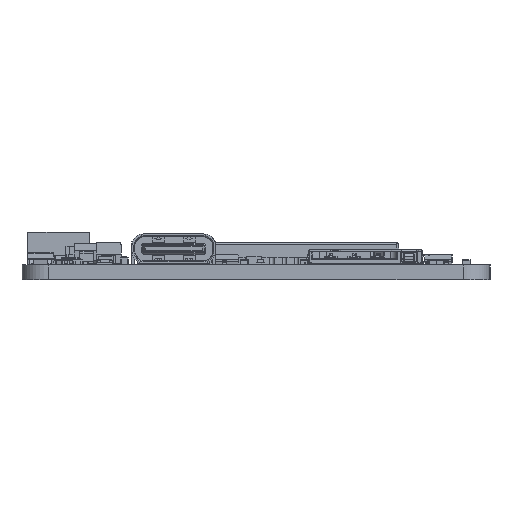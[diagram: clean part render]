
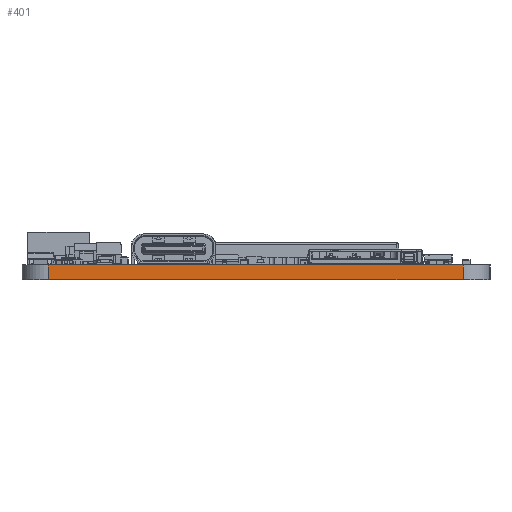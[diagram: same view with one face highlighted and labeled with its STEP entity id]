
A CAD part, left-side view. The second image highlights one B-rep face of the part: STEP entity #401.
In plain terms, the highlighted planar face has unit normal (-1, 0, 0).
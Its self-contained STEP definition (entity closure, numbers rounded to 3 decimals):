
#401 = ADVANCED_FACE('',(#402),#436,.T.);
#402 = FACE_BOUND('',#403,.T.);
#403 = EDGE_LOOP('',(#404,#414,#422,#430));
#404 = ORIENTED_EDGE('',*,*,#405,.T.);
#405 = EDGE_CURVE('',#406,#408,#410,.T.);
#406 = VERTEX_POINT('',#407);
#407 = CARTESIAN_POINT('',(38.104,71.886,0.));
#408 = VERTEX_POINT('',#409);
#409 = CARTESIAN_POINT('',(38.104,71.886,1.601));
#410 = LINE('',#411,#412);
#411 = CARTESIAN_POINT('',(38.104,71.886,0.));
#412 = VECTOR('',#413,1.);
#413 = DIRECTION('',(0.,0.,1.));
#414 = ORIENTED_EDGE('',*,*,#415,.T.);
#415 = EDGE_CURVE('',#408,#416,#418,.T.);
#416 = VERTEX_POINT('',#417);
#417 = CARTESIAN_POINT('',(38.104,116.31,1.601));
#418 = LINE('',#419,#420);
#419 = CARTESIAN_POINT('',(38.104,71.886,1.601));
#420 = VECTOR('',#421,1.);
#421 = DIRECTION('',(0.,1.,0.));
#422 = ORIENTED_EDGE('',*,*,#423,.F.);
#423 = EDGE_CURVE('',#424,#416,#426,.T.);
#424 = VERTEX_POINT('',#425);
#425 = CARTESIAN_POINT('',(38.104,116.31,0.));
#426 = LINE('',#427,#428);
#427 = CARTESIAN_POINT('',(38.104,116.31,0.));
#428 = VECTOR('',#429,1.);
#429 = DIRECTION('',(0.,0.,1.));
#430 = ORIENTED_EDGE('',*,*,#431,.F.);
#431 = EDGE_CURVE('',#406,#424,#432,.T.);
#432 = LINE('',#433,#434);
#433 = CARTESIAN_POINT('',(38.104,71.886,0.));
#434 = VECTOR('',#435,1.);
#435 = DIRECTION('',(0.,1.,0.));
#436 = PLANE('',#437);
#437 = AXIS2_PLACEMENT_3D('',#438,#439,#440);
#438 = CARTESIAN_POINT('',(38.104,71.886,0.));
#439 = DIRECTION('',(-1.,0.,0.));
#440 = DIRECTION('',(0.,1.,0.));
